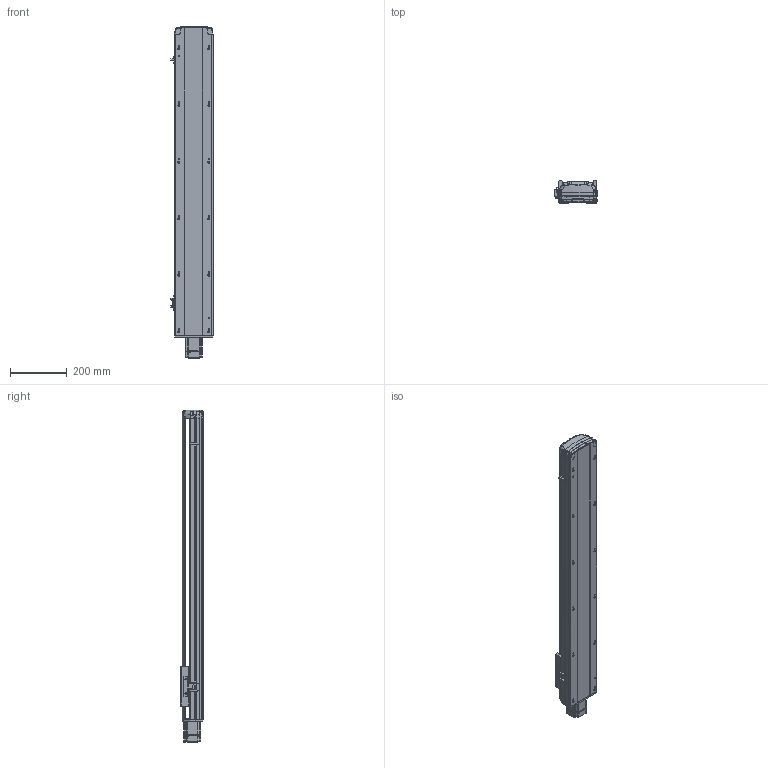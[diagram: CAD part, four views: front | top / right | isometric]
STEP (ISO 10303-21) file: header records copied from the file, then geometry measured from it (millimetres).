
FILE_DESCRIPTION (( 'STEP AP214' ), '1' );
FILE_NAME ('RTH14-XX-850-E-M20-C4.STEP', '2025-10-24T09:13:48', ( 'Microsoft' ), ( 'Microsoft' ), 'SwSTEP 2.0', 'SolidWorks 2018', '' );
FILE_SCHEMA (( 'AUTOMOTIVE_DESIGN' ));
Length unit declared in the file: millimetre
Products named in the file (9): N_RTH14-E-011P菁釱^RTH14-XX-XX-E-M20-C4; N_OMRON EE-SX672 传感器^RTH14-XX-XX-E-M20-C4; N_RTH13-L-012感应片（外置）^RTH14-XX-XX-E-M20-C4; N_RTH14-GY-001P^RTH14-XX-XX-E-M20-C4; RTH14-XX-850-E-M20-C4; N_MSMD022P1AA_200W^RTH14-XX-XX-E-M20-C4; N_RTH14-R-004-SFSR16賑釱^RTH14-XX-XX-E-M20-C4; N_RTH13-E-008萇儂耜猾裔^RTH14-XX-XX-E-M20-C4; N_RTH14-E-007P奻裔^RTH14-XX-XX-E-M20-C4
Assembly tree (10 placements, depth 2):
  RTH14-XX-850-E-M20-C4
    N_RTH14-E-011P菁釱^RTH14-XX-XX-E-M20-C4
    N_RTH14-E-007P奻裔^RTH14-XX-XX-E-M20-C4
    N_MSMD022P1AA_200W^RTH14-XX-XX-E-M20-C4
    N_RTH13-L-012感应片（外置）^RTH14-XX-XX-E-M20-C4
    N_OMRON EE-SX672 传感器^RTH14-XX-XX-E-M20-C4  x3
    N_RTH13-E-008萇儂耜猾裔^RTH14-XX-XX-E-M20-C4
    N_RTH14-R-004-SFSR16賑釱^RTH14-XX-XX-E-M20-C4
    N_RTH14-GY-001P^RTH14-XX-XX-E-M20-C4
Bounding box: 148.5 x 78.03 x 1172.49 mm (x, y, z)
Volume: 4802079.2 mm3; surface area: 1057320.2 mm2
Topology: 10 solids, 10 shells, 1881 faces, 5296 edges, 3480 vertices
Faces by surface type: plane 979, cylinder 512, bspline 341, cone 45, torus 4
Entity records: 57742 total; most frequent: CARTESIAN_POINT 22986, ORIENTED_EDGE 7660, DIRECTION 6205, EDGE_CURVE 3830, VERTEX_POINT 2516, LINE 2181, VECTOR 2181, AXIS2_PLACEMENT_3D 2012
